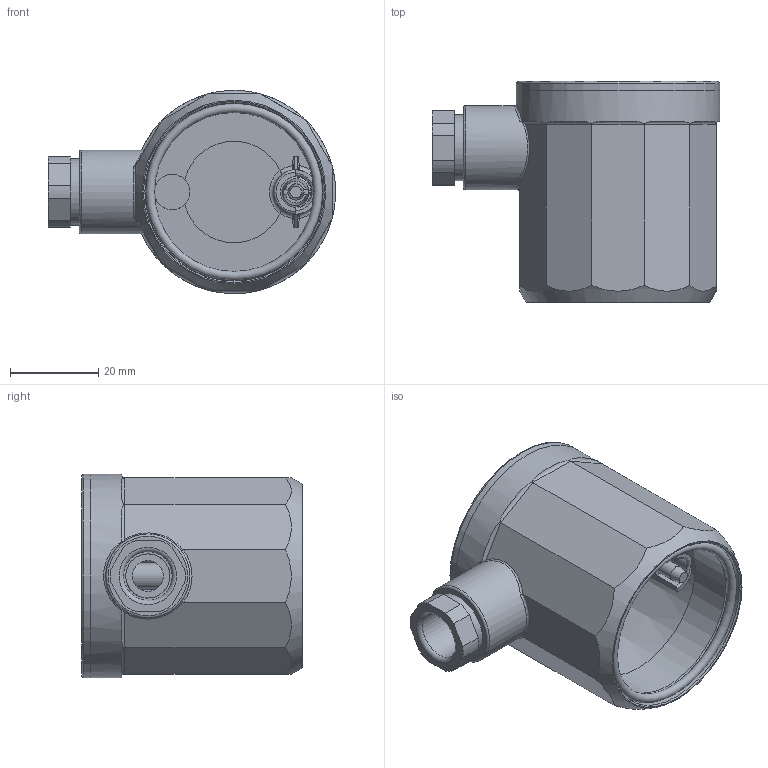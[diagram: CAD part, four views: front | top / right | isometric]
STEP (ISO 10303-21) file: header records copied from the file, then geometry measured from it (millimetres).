
FILE_DESCRIPTION(/* description */ (''),/* implementation_level */ '2;1');
FILE_NAME(/* name */ 'U:/AirCom-Produktdokumentation/Zubehoer/DS/Zeichnungen/CAD-Aircom/3D/B-DS-KAP6.step',/* time_stamp */ '2022-07-05T10:52:24+02:00',/* author */ (''),/* organization */ (''),/* preprocessor_version */ 'ST-DEVELOPER v19',/* originating_system */ 'Autodesk Translation Framework v11.7.0.108',/* authorisation */ '');
FILE_SCHEMA (('AUTOMOTIVE_DESIGN { 1 0 10303 214 3 1 1 }'));
Length unit declared in the file: millimetre
Products named in the file (10): 6372_Schutzkappe_IP65; 8.339.076_Deckel~a; 8.339.090_Ring~a; o-rings series g_din_O-ring DIN 3771 - 40x1.5; o-rings series g_din_O-ring DIN 3771 - 36x2; 8.149.005_Druckring~0; 8.149.006_Dichtring~0; 8.149.033_Druckschraube~0; 8.543.033_Flachdichtung~0; 8.206-PT_PT-Schraube~0_PT Schraube Z 35x30 WN5412 <Standard>
Assembly tree (9 placements, depth 2):
  6372_Schutzkappe_IP65
    8.339.076_Deckel~a
    8.339.090_Ring~a
    o-rings series g_din_O-ring DIN 3771 - 40x1.5
    o-rings series g_din_O-ring DIN 3771 - 36x2
    8.149.005_Druckring~0
    8.149.006_Dichtring~0
    8.149.033_Druckschraube~0
    8.543.033_Flachdichtung~0
    8.206-PT_PT-Schraube~0_PT Schraube Z 35x30 WN5412 <Standard>
Bounding box: 65 x 50 x 46 mm (x, y, z)
Volume: 23773.8 mm3; surface area: 28068.1 mm2
Topology: 9 solids, 9 shells, 209 faces, 511 edges, 329 vertices
Faces by surface type: plane 97, cylinder 61, torus 25, bspline 16, cone 10
Full cylindrical faces by diameter (mm): 2.45 x1, 3 x1, 3.5 x1, 3.7 x1, 4.9 x1, 6 x2, 6.1 x1, 7 x1, 7.2 x1, 8 x1, 10 x3, 11 x1, 13.5 x2, 14.5 x1, 15 x1, 19 x1, 36.6 x1, 39.5 x1, 40.4 x1, 41 x2, 43 x1, 43.5 x1, 46 x2
Entity records: 7968 total; most frequent: CARTESIAN_POINT 2689, DIRECTION 1067, ORIENTED_EDGE 1022, EDGE_CURVE 511, AXIS2_PLACEMENT_3D 445, VERTEX_POINT 329, EDGE_LOOP 236, CIRCLE 213
